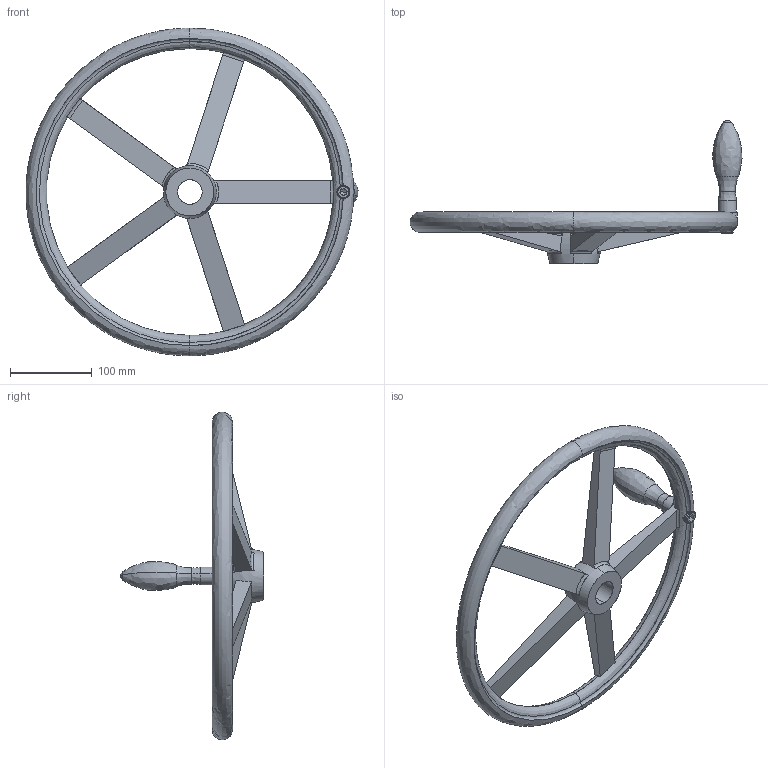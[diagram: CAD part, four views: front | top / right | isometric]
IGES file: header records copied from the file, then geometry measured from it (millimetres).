
Start section: SolidWorks IGES file using analytic representation for surfaces
Global section: file name: C:\Users\IanO\Desktop\Temp File\Process pending\77120_v2\77120_v2_20171108_IGES\77120.W0450.igs; native system: SolidWorks 2017; preprocessor: SolidWorks 2017; author: IanO; date: 171108.083807; units: millimetre
Bounding box: 405.3 x 175 x 400 mm (x, y, z)
Surface area: 178017.3 mm2 (no closed solid volume)
Topology: 0 solids, 0 shells, 139 faces, 1931 edges, 1922 vertices
Faces by surface type: bspline 73, revolution 66
